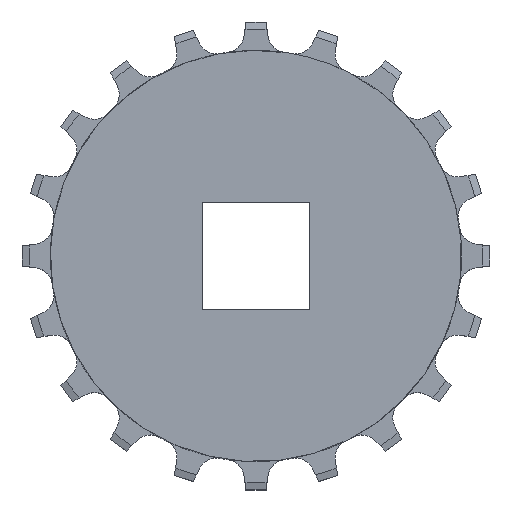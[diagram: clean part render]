
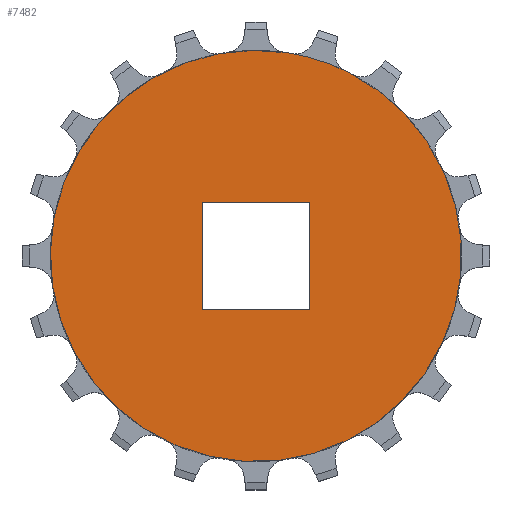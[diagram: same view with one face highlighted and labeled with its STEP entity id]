
A CAD part, top view. The second image highlights one B-rep face of the part: STEP entity #7482.
In plain terms, the highlighted planar face has unit normal (0, 0, 1).
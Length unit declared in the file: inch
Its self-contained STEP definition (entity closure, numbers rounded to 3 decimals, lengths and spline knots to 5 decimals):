
#22=CARTESIAN_POINT('',(0.,0.,0.375));
#23=DIRECTION('',(0.,0.,1.));
#24=DIRECTION('',(0.156,0.988,0.));
#25=AXIS2_PLACEMENT_3D('',#22,#23,#24);
#3040=CARTESIAN_POINT('',(0.,0.,0.375));
#3041=DIRECTION('',(0.,0.,1.));
#3042=DIRECTION('',(0.454,0.891,0.));
#3043=AXIS2_PLACEMENT_3D('',#3040,#3041,#3042);
#3045=DIRECTION('',(0.,-1.,0.));
#3046=VECTOR('',#3045,1.5);
#3047=CARTESIAN_POINT('',(-0.75,0.75,0.375));
#3048=LINE('',#3047,#3046);
#3049=DIRECTION('',(1.,0.,0.));
#3050=VECTOR('',#3049,1.5);
#3051=CARTESIAN_POINT('',(-0.75,-0.75,0.375));
#3052=LINE('',#3051,#3050);
#3053=DIRECTION('',(0.,1.,0.));
#3054=VECTOR('',#3053,1.5);
#3055=CARTESIAN_POINT('',(0.75,-0.75,0.375));
#3056=LINE('',#3055,#3054);
#3057=DIRECTION('',(-1.,0.,0.));
#3058=VECTOR('',#3057,1.5);
#3059=CARTESIAN_POINT('',(0.75,0.75,0.375));
#3060=LINE('',#3059,#3058);
#3238=CARTESIAN_POINT('',(0.44794,2.82819,0.375));
#3240=VERTEX_POINT('',#3238);
#3242=CARTESIAN_POINT('',(1.29998,2.55135,0.375));
#3244=VERTEX_POINT('',#3242);
#3797=CARTESIAN_POINT('',(-0.75,0.75,0.375));
#3798=CARTESIAN_POINT('',(-0.75,-0.75,0.375));
#3799=VERTEX_POINT('',#3797);
#3800=VERTEX_POINT('',#3798);
#3801=CARTESIAN_POINT('',(0.75,-0.75,0.375));
#3802=VERTEX_POINT('',#3801);
#3803=CARTESIAN_POINT('',(0.75,0.75,0.375));
#3804=VERTEX_POINT('',#3803);
#7463=CARTESIAN_POINT('',(0.,0.,0.375));
#7464=DIRECTION('',(0.,0.,1.));
#7465=DIRECTION('',(1.,0.,0.));
#7466=AXIS2_PLACEMENT_3D('',#7463,#7464,#7465);
#7467=PLANE('',#7466);
#7468=ORIENTED_EDGE('',*,*,#3840,.F.);
#7469=ORIENTED_EDGE('',*,*,#4489,.F.);
#7470=EDGE_LOOP('',(#7468,#7469));
#7471=FACE_OUTER_BOUND('',#7470,.F.);
#7473=ORIENTED_EDGE('',*,*,#7472,.T.);
#7475=ORIENTED_EDGE('',*,*,#7474,.T.);
#7477=ORIENTED_EDGE('',*,*,#7476,.T.);
#7479=ORIENTED_EDGE('',*,*,#7478,.T.);
#7480=EDGE_LOOP('',(#7473,#7475,#7477,#7479));
#7481=FACE_BOUND('',#7480,.F.);
#7482=ADVANCED_FACE('',(#7471,#7481),#7467,.T.);
#26=CIRCLE('',#25,2.86344);
#3044=CIRCLE('',#3043,2.86344);
#3840=EDGE_CURVE('',#3240,#3244,#26,.T.);
#4489=EDGE_CURVE('',#3244,#3240,#3044,.T.);
#7472=EDGE_CURVE('',#3799,#3800,#3048,.T.);
#7474=EDGE_CURVE('',#3800,#3802,#3052,.T.);
#7476=EDGE_CURVE('',#3802,#3804,#3056,.T.);
#7478=EDGE_CURVE('',#3804,#3799,#3060,.T.);
